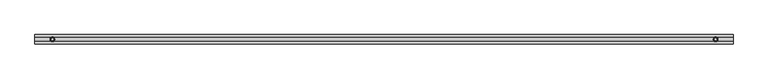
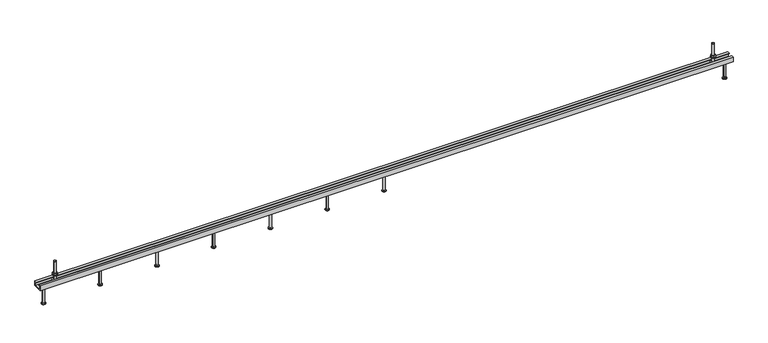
"""IFC4 building model written with IfcOpenShell, lengths in millimetres: fastener geometry, JTA-W JORDAHL® AnchorChannels : JTA-W L=3000 mm."""

from ifc_helpers import new_model, si_unit, point, frame, frame_2d, origin, place, context, project, spatial, polyline, circle_curve, trimmed, segment, composite_curve, outline, extrude, source, transform, mapped, element, save
from ifc_brep_helpers import plane_surface, cylinder_surface, revolved_surface, advanced_brep


def fastener_7793e029(model_context):
    return source(origin(), model_context, "Body", "SolidModel", [
        advanced_brep(
        [(1500.0, 0.0, -22.0), (1513.5, 0.0, -22.0), (1486.5, 0.0, -22.0), (1491.5, 0.0, -100.0), (1508.5, 0.0, -100.0), (1500.0, 0.0, -100.0), (1491.5, 0.0, -98.0), (1508.5, 0.0, -98.0), (1495.5, 0.0, -95.6905989), (1504.5, 0.0, -95.6905989), (1495.5, 0.0, -24.5), (1504.5, 0.0, -24.5)],
        [
            (0, 1),
            (1, 2, circle_curve(frame((1500.0, 0.0, -22.0), z_axis=(0.0, 0.0, 1.0), x_axis=(1.0, 0.0, 0.0)), 13.5)),
            (2, 0),
            (2, 1, circle_curve(frame((1500.0, 0.0, -22.0), z_axis=(0.0, 0.0, 1.0), x_axis=(1.0, 0.0, 0.0)), 13.5)),
            (3, 4, circle_curve(frame((1500.0, 0.0, -100.0), z_axis=(0.0, 0.0, -1.0), x_axis=(1.0, 0.0, 0.0)), 8.5)),
            (4, 5),
            (5, 3),
            (4, 3, circle_curve(frame((1500.0, 0.0, -100.0), z_axis=(0.0, 0.0, -1.0), x_axis=(1.0, 0.0, 0.0)), 8.5)),
            (6, 7, circle_curve(frame((1500.0, 0.0, -98.0), z_axis=(0.0, 0.0, -1.0), x_axis=(1.0, 0.0, 0.0)), 8.5)),
            (7, 4),
            (3, 6),
            (7, 6, circle_curve(frame((1500.0, 0.0, -98.0), z_axis=(0.0, 0.0, -1.0), x_axis=(1.0, 0.0, 0.0)), 8.5)),
            (8, 9, circle_curve(frame((1500.0, 0.0, -95.6905989), z_axis=(0.0, 0.0, -1.0), x_axis=(1.0, 0.0, 0.0)), 4.5)),
            (9, 7),
            (6, 8),
            (9, 8, circle_curve(frame((1500.0, 0.0, -95.6905989), z_axis=(0.0, 0.0, -1.0), x_axis=(1.0, 0.0, 0.0)), 4.5)),
            (10, 11, circle_curve(frame((1500.0, 0.0, -24.5), z_axis=(0.0, 0.0, -1.0), x_axis=(1.0, 0.0, 0.0)), 4.5)),
            (11, 9),
            (8, 10),
            (11, 10, circle_curve(frame((1500.0, 0.0, -24.5), z_axis=(0.0, 0.0, -1.0), x_axis=(1.0, 0.0, 0.0)), 4.5)),
            (1, 11),
            (10, 2),
        ],
        [
            plane_surface(frame((1500.0, 0.0, -22.0), z_axis=(0.0, 0.0, 1.0), x_axis=(1.0, 0.0, 0.0))),
            plane_surface(frame((1500.0, 0.0, -100.0), z_axis=(0.0, 0.0, -1.0), x_axis=(1.0, 0.0, 0.0))),
            cylinder_surface(frame((1500.0, 0.0, 2292.3150031), z_axis=(0.0, 0.0, 1.0), x_axis=(1.0, 0.0, 0.0)), 8.5),
            revolved_surface(polyline([(1508.5, 0.0, -98.0), (1504.5, 0.0, -95.6905989)]), (1500.0, 0.0, 2292.3150031), (0.0, 0.0, 1.0)),
            cylinder_surface(frame((1500.0, 0.0, 2292.3150031), z_axis=(0.0, 0.0, 1.0), x_axis=(1.0, 0.0, 0.0)), 4.5),
            revolved_surface(polyline([(1504.5, 0.0, -24.5), (1513.5, 0.0, -22.0)]), (1500.0, 0.0, 2292.3150031), (0.0, 0.0, 1.0)),
        ],
        [
            (0, [[1, 2, 3]]),
            (0, [[-3, 4, -1]]),
            (1, [[5, 6, 7]]),
            (1, [[8, -7, -6]]),
            (2, [[9, 10, -5, 11]]),
            (2, [[12, -11, -8, -10]]),
            (3, [[13, 14, -9, 15]]),
            (3, [[16, -15, -12, -14]]),
            (4, [[17, 18, -13, 19]]),
            (4, [[20, -19, -16, -18]]),
            (5, [[-2, 21, -17, 22]]),
            (5, [[-4, -22, -20, -21]]),
        ],
    ),
        advanced_brep(
        [(1254.1666667, 0.0, -22.0), (1267.6666667, 0.0, -22.0), (1240.6666667, 0.0, -22.0), (1245.6666667, 0.0, -100.0), (1262.6666667, 0.0, -100.0), (1254.1666667, 0.0, -100.0), (1245.6666667, 0.0, -98.0), (1262.6666667, 0.0, -98.0), (1249.6666667, 0.0, -95.6905989), (1258.6666667, 0.0, -95.6905989), (1249.6666667, 0.0, -24.5), (1258.6666667, 0.0, -24.5)],
        [
            (0, 1),
            (1, 2, circle_curve(frame((1254.1666667, 0.0, -22.0), z_axis=(0.0, 0.0, 1.0), x_axis=(1.0, 0.0, 0.0)), 13.5)),
            (2, 0),
            (2, 1, circle_curve(frame((1254.1666667, 0.0, -22.0), z_axis=(0.0, 0.0, 1.0), x_axis=(1.0, 0.0, 0.0)), 13.5)),
            (3, 4, circle_curve(frame((1254.1666667, 0.0, -100.0), z_axis=(0.0, 0.0, -1.0), x_axis=(1.0, 0.0, 0.0)), 8.5)),
            (4, 5),
            (5, 3),
            (4, 3, circle_curve(frame((1254.1666667, 0.0, -100.0), z_axis=(0.0, 0.0, -1.0), x_axis=(1.0, 0.0, 0.0)), 8.5)),
            (6, 7, circle_curve(frame((1254.1666667, 0.0, -98.0), z_axis=(0.0, 0.0, -1.0), x_axis=(1.0, 0.0, 0.0)), 8.5)),
            (7, 4),
            (3, 6),
            (7, 6, circle_curve(frame((1254.1666667, 0.0, -98.0), z_axis=(0.0, 0.0, -1.0), x_axis=(1.0, 0.0, 0.0)), 8.5)),
            (8, 9, circle_curve(frame((1254.1666667, 0.0, -95.6905989), z_axis=(0.0, 0.0, -1.0), x_axis=(1.0, 0.0, 0.0)), 4.5)),
            (9, 7),
            (6, 8),
            (9, 8, circle_curve(frame((1254.1666667, 0.0, -95.6905989), z_axis=(0.0, 0.0, -1.0), x_axis=(1.0, 0.0, 0.0)), 4.5)),
            (10, 11, circle_curve(frame((1254.1666667, 0.0, -24.5), z_axis=(0.0, 0.0, -1.0), x_axis=(1.0, 0.0, 0.0)), 4.5)),
            (11, 9),
            (8, 10),
            (11, 10, circle_curve(frame((1254.1666667, 0.0, -24.5), z_axis=(0.0, 0.0, -1.0), x_axis=(1.0, 0.0, 0.0)), 4.5)),
            (1, 11),
            (10, 2),
        ],
        [
            plane_surface(frame((1254.1666667, 0.0, -22.0), z_axis=(0.0, 0.0, 1.0), x_axis=(1.0, 0.0, 0.0))),
            plane_surface(frame((1254.1666667, 0.0, -100.0), z_axis=(0.0, 0.0, -1.0), x_axis=(1.0, 0.0, 0.0))),
            cylinder_surface(frame((1254.1666667, 0.0, 2292.3150031), z_axis=(0.0, 0.0, 1.0), x_axis=(1.0, 0.0, 0.0)), 8.5),
            revolved_surface(polyline([(1262.6666667, 0.0, -98.0), (1258.6666667, 0.0, -95.6905989)]), (1254.1666667, 0.0, 2292.3150031), (0.0, 0.0, 1.0)),
            cylinder_surface(frame((1254.1666667, 0.0, 2292.3150031), z_axis=(0.0, 0.0, 1.0), x_axis=(1.0, 0.0, 0.0)), 4.5),
            revolved_surface(polyline([(1258.6666667, 0.0, -24.5), (1267.6666667, 0.0, -22.0)]), (1254.1666667, 0.0, 2292.3150031), (0.0, 0.0, 1.0)),
        ],
        [
            (0, [[1, 2, 3]]),
            (0, [[-3, 4, -1]]),
            (1, [[5, 6, 7]]),
            (1, [[8, -7, -6]]),
            (2, [[9, 10, -5, 11]]),
            (2, [[12, -11, -8, -10]]),
            (3, [[13, 14, -9, 15]]),
            (3, [[16, -15, -12, -14]]),
            (4, [[17, 18, -13, 19]]),
            (4, [[20, -19, -16, -18]]),
            (5, [[-2, 21, -17, 22]]),
            (5, [[-4, -22, -20, -21]]),
        ],
    ),
        advanced_brep(
        [(1008.3333333, 0.0, -22.0), (1021.8333333, 0.0, -22.0), (994.8333333, 0.0, -22.0), (999.8333333, 0.0, -100.0), (1016.8333333, 0.0, -100.0), (1008.3333333, 0.0, -100.0), (999.8333333, 0.0, -98.0), (1016.8333333, 0.0, -98.0), (1003.8333333, 0.0, -95.6905989), (1012.8333333, 0.0, -95.6905989), (1003.8333333, 0.0, -24.5), (1012.8333333, 0.0, -24.5)],
        [
            (0, 1),
            (1, 2, circle_curve(frame((1008.3333333, 0.0, -22.0), z_axis=(0.0, 0.0, 1.0), x_axis=(1.0, 0.0, 0.0)), 13.5)),
            (2, 0),
            (2, 1, circle_curve(frame((1008.3333333, 0.0, -22.0), z_axis=(0.0, 0.0, 1.0), x_axis=(1.0, 0.0, 0.0)), 13.5)),
            (3, 4, circle_curve(frame((1008.3333333, 0.0, -100.0), z_axis=(0.0, 0.0, -1.0), x_axis=(1.0, 0.0, 0.0)), 8.5)),
            (4, 5),
            (5, 3),
            (4, 3, circle_curve(frame((1008.3333333, 0.0, -100.0), z_axis=(0.0, 0.0, -1.0), x_axis=(1.0, 0.0, 0.0)), 8.5)),
            (6, 7, circle_curve(frame((1008.3333333, 0.0, -98.0), z_axis=(0.0, 0.0, -1.0), x_axis=(1.0, 0.0, 0.0)), 8.5)),
            (7, 4),
            (3, 6),
            (7, 6, circle_curve(frame((1008.3333333, 0.0, -98.0), z_axis=(0.0, 0.0, -1.0), x_axis=(1.0, 0.0, 0.0)), 8.5)),
            (8, 9, circle_curve(frame((1008.3333333, 0.0, -95.6905989), z_axis=(0.0, 0.0, -1.0), x_axis=(1.0, 0.0, 0.0)), 4.5)),
            (9, 7),
            (6, 8),
            (9, 8, circle_curve(frame((1008.3333333, 0.0, -95.6905989), z_axis=(0.0, 0.0, -1.0), x_axis=(1.0, 0.0, 0.0)), 4.5)),
            (10, 11, circle_curve(frame((1008.3333333, 0.0, -24.5), z_axis=(0.0, 0.0, -1.0), x_axis=(1.0, 0.0, 0.0)), 4.5)),
            (11, 9),
            (8, 10),
            (11, 10, circle_curve(frame((1008.3333333, 0.0, -24.5), z_axis=(0.0, 0.0, -1.0), x_axis=(1.0, 0.0, 0.0)), 4.5)),
            (1, 11),
            (10, 2),
        ],
        [
            plane_surface(frame((1008.3333333, 0.0, -22.0), z_axis=(0.0, 0.0, 1.0), x_axis=(1.0, 0.0, 0.0))),
            plane_surface(frame((1008.3333333, 0.0, -100.0), z_axis=(0.0, 0.0, -1.0), x_axis=(1.0, 0.0, 0.0))),
            cylinder_surface(frame((1008.3333333, 0.0, 2292.3150031), z_axis=(0.0, 0.0, 1.0), x_axis=(1.0, 0.0, 0.0)), 8.5),
            revolved_surface(polyline([(1016.8333333, 0.0, -98.0), (1012.8333333, 0.0, -95.6905989)]), (1008.3333333, 0.0, 2292.3150031), (0.0, 0.0, 1.0)),
            cylinder_surface(frame((1008.3333333, 0.0, 2292.3150031), z_axis=(0.0, 0.0, 1.0), x_axis=(1.0, 0.0, 0.0)), 4.5),
            revolved_surface(polyline([(1012.8333333, 0.0, -24.5), (1021.8333333, 0.0, -22.0)]), (1008.3333333, 0.0, 2292.3150031), (0.0, 0.0, 1.0)),
        ],
        [
            (0, [[1, 2, 3]]),
            (0, [[-3, 4, -1]]),
            (1, [[5, 6, 7]]),
            (1, [[8, -7, -6]]),
            (2, [[9, 10, -5, 11]]),
            (2, [[12, -11, -8, -10]]),
            (3, [[13, 14, -9, 15]]),
            (3, [[16, -15, -12, -14]]),
            (4, [[17, 18, -13, 19]]),
            (4, [[20, -19, -16, -18]]),
            (5, [[-2, 21, -17, 22]]),
            (5, [[-4, -22, -20, -21]]),
        ],
    ),
        advanced_brep(
        [(762.5, 0.0, -22.0), (776.0, 0.0, -22.0), (749.0, 0.0, -22.0), (754.0, 0.0, -100.0), (771.0, 0.0, -100.0), (762.5, 0.0, -100.0), (754.0, 0.0, -98.0), (771.0, 0.0, -98.0), (758.0, 0.0, -95.6905989), (767.0, 0.0, -95.6905989), (758.0, 0.0, -24.5), (767.0, 0.0, -24.5)],
        [
            (0, 1),
            (1, 2, circle_curve(frame((762.5, 0.0, -22.0), z_axis=(0.0, 0.0, 1.0), x_axis=(1.0, 0.0, 0.0)), 13.5)),
            (2, 0),
            (2, 1, circle_curve(frame((762.5, 0.0, -22.0), z_axis=(0.0, 0.0, 1.0), x_axis=(1.0, 0.0, 0.0)), 13.5)),
            (3, 4, circle_curve(frame((762.5, 0.0, -100.0), z_axis=(0.0, 0.0, -1.0), x_axis=(1.0, 0.0, 0.0)), 8.5)),
            (4, 5),
            (5, 3),
            (4, 3, circle_curve(frame((762.5, 0.0, -100.0), z_axis=(0.0, 0.0, -1.0), x_axis=(1.0, 0.0, 0.0)), 8.5)),
            (6, 7, circle_curve(frame((762.5, 0.0, -98.0), z_axis=(0.0, 0.0, -1.0), x_axis=(1.0, 0.0, 0.0)), 8.5)),
            (7, 4),
            (3, 6),
            (7, 6, circle_curve(frame((762.5, 0.0, -98.0), z_axis=(0.0, 0.0, -1.0), x_axis=(1.0, 0.0, 0.0)), 8.5)),
            (8, 9, circle_curve(frame((762.5, 0.0, -95.6905989), z_axis=(0.0, 0.0, -1.0), x_axis=(1.0, 0.0, 0.0)), 4.5)),
            (9, 7),
            (6, 8),
            (9, 8, circle_curve(frame((762.5, 0.0, -95.6905989), z_axis=(0.0, 0.0, -1.0), x_axis=(1.0, 0.0, 0.0)), 4.5)),
            (10, 11, circle_curve(frame((762.5, 0.0, -24.5), z_axis=(0.0, 0.0, -1.0), x_axis=(1.0, 0.0, 0.0)), 4.5)),
            (11, 9),
            (8, 10),
            (11, 10, circle_curve(frame((762.5, 0.0, -24.5), z_axis=(0.0, 0.0, -1.0), x_axis=(1.0, 0.0, 0.0)), 4.5)),
            (1, 11),
            (10, 2),
        ],
        [
            plane_surface(frame((762.5, 0.0, -22.0), z_axis=(0.0, 0.0, 1.0), x_axis=(1.0, 0.0, 0.0))),
            plane_surface(frame((762.5, 0.0, -100.0), z_axis=(0.0, 0.0, -1.0), x_axis=(1.0, 0.0, 0.0))),
            cylinder_surface(frame((762.5, 0.0, 2292.3150031), z_axis=(0.0, 0.0, 1.0), x_axis=(1.0, 0.0, 0.0)), 8.5),
            revolved_surface(polyline([(771.0, 0.0, -98.0), (767.0, 0.0, -95.6905989)]), (762.5, 0.0, 2292.3150031), (0.0, 0.0, 1.0)),
            cylinder_surface(frame((762.5, 0.0, 2292.3150031), z_axis=(0.0, 0.0, 1.0), x_axis=(1.0, 0.0, 0.0)), 4.5),
            revolved_surface(polyline([(767.0, 0.0, -24.5), (776.0, 0.0, -22.0)]), (762.5, 0.0, 2292.3150031), (0.0, 0.0, 1.0)),
        ],
        [
            (0, [[1, 2, 3]]),
            (0, [[-3, 4, -1]]),
            (1, [[5, 6, 7]]),
            (1, [[8, -7, -6]]),
            (2, [[9, 10, -5, 11]]),
            (2, [[12, -11, -8, -10]]),
            (3, [[13, 14, -9, 15]]),
            (3, [[16, -15, -12, -14]]),
            (4, [[17, 18, -13, 19]]),
            (4, [[20, -19, -16, -18]]),
            (5, [[-2, 21, -17, 22]]),
            (5, [[-4, -22, -20, -21]]),
        ],
    ),
        advanced_brep(
        [(516.6666667, 0.0, -22.0), (530.1666667, 0.0, -22.0), (503.1666667, 0.0, -22.0), (508.1666667, 0.0, -100.0), (525.1666667, 0.0, -100.0), (516.6666667, 0.0, -100.0), (508.1666667, 0.0, -98.0), (525.1666667, 0.0, -98.0), (512.1666667, 0.0, -95.6905989), (521.1666667, 0.0, -95.6905989), (512.1666667, 0.0, -24.5), (521.1666667, 0.0, -24.5)],
        [
            (0, 1),
            (1, 2, circle_curve(frame((516.6666667, 0.0, -22.0), z_axis=(0.0, 0.0, 1.0), x_axis=(1.0, 0.0, 0.0)), 13.5)),
            (2, 0),
            (2, 1, circle_curve(frame((516.6666667, 0.0, -22.0), z_axis=(0.0, 0.0, 1.0), x_axis=(1.0, 0.0, 0.0)), 13.5)),
            (3, 4, circle_curve(frame((516.6666667, 0.0, -100.0), z_axis=(0.0, 0.0, -1.0), x_axis=(1.0, 0.0, 0.0)), 8.5)),
            (4, 5),
            (5, 3),
            (4, 3, circle_curve(frame((516.6666667, 0.0, -100.0), z_axis=(0.0, 0.0, -1.0), x_axis=(1.0, 0.0, 0.0)), 8.5)),
            (6, 7, circle_curve(frame((516.6666667, 0.0, -98.0), z_axis=(0.0, 0.0, -1.0), x_axis=(1.0, 0.0, 0.0)), 8.5)),
            (7, 4),
            (3, 6),
            (7, 6, circle_curve(frame((516.6666667, 0.0, -98.0), z_axis=(0.0, 0.0, -1.0), x_axis=(1.0, 0.0, 0.0)), 8.5)),
            (8, 9, circle_curve(frame((516.6666667, 0.0, -95.6905989), z_axis=(0.0, 0.0, -1.0), x_axis=(1.0, 0.0, 0.0)), 4.5)),
            (9, 7),
            (6, 8),
            (9, 8, circle_curve(frame((516.6666667, 0.0, -95.6905989), z_axis=(0.0, 0.0, -1.0), x_axis=(1.0, 0.0, 0.0)), 4.5)),
            (10, 11, circle_curve(frame((516.6666667, 0.0, -24.5), z_axis=(0.0, 0.0, -1.0), x_axis=(1.0, 0.0, 0.0)), 4.5)),
            (11, 9),
            (8, 10),
            (11, 10, circle_curve(frame((516.6666667, 0.0, -24.5), z_axis=(0.0, 0.0, -1.0), x_axis=(1.0, 0.0, 0.0)), 4.5)),
            (1, 11),
            (10, 2),
        ],
        [
            plane_surface(frame((516.6666667, 0.0, -22.0), z_axis=(0.0, 0.0, 1.0), x_axis=(1.0, 0.0, 0.0))),
            plane_surface(frame((516.6666667, 0.0, -100.0), z_axis=(0.0, 0.0, -1.0), x_axis=(1.0, 0.0, 0.0))),
            cylinder_surface(frame((516.6666667, 0.0, 2292.3150031), z_axis=(0.0, 0.0, 1.0), x_axis=(1.0, 0.0, 0.0)), 8.5),
            revolved_surface(polyline([(525.1666667, 0.0, -98.0), (521.1666667, 0.0, -95.6905989)]), (516.6666667, 0.0, 2292.3150031), (0.0, 0.0, 1.0)),
            cylinder_surface(frame((516.6666667, 0.0, 2292.3150031), z_axis=(0.0, 0.0, 1.0), x_axis=(1.0, 0.0, 0.0)), 4.5),
            revolved_surface(polyline([(521.1666667, 0.0, -24.5), (530.1666667, 0.0, -22.0)]), (516.6666667, 0.0, 2292.3150031), (0.0, 0.0, 1.0)),
        ],
        [
            (0, [[1, 2, 3]]),
            (0, [[-3, 4, -1]]),
            (1, [[5, 6, 7]]),
            (1, [[8, -7, -6]]),
            (2, [[9, 10, -5, 11]]),
            (2, [[12, -11, -8, -10]]),
            (3, [[13, 14, -9, 15]]),
            (3, [[16, -15, -12, -14]]),
            (4, [[17, 18, -13, 19]]),
            (4, [[20, -19, -16, -18]]),
            (5, [[-2, 21, -17, 22]]),
            (5, [[-4, -22, -20, -21]]),
        ],
    ),
        advanced_brep(
        [(270.8333333, 0.0, -22.0), (284.3333333, 0.0, -22.0), (257.3333333, 0.0, -22.0), (262.3333333, 0.0, -100.0), (279.3333333, 0.0, -100.0), (270.8333333, 0.0, -100.0), (262.3333333, 0.0, -98.0), (279.3333333, 0.0, -98.0), (266.3333333, 0.0, -95.6905989), (275.3333333, 0.0, -95.6905989), (266.3333333, 0.0, -24.5), (275.3333333, 0.0, -24.5)],
        [
            (0, 1),
            (1, 2, circle_curve(frame((270.8333333, 0.0, -22.0), z_axis=(0.0, 0.0, 1.0), x_axis=(1.0, 0.0, 0.0)), 13.5)),
            (2, 0),
            (2, 1, circle_curve(frame((270.8333333, 0.0, -22.0), z_axis=(0.0, 0.0, 1.0), x_axis=(1.0, 0.0, 0.0)), 13.5)),
            (3, 4, circle_curve(frame((270.8333333, 0.0, -100.0), z_axis=(0.0, 0.0, -1.0), x_axis=(1.0, 0.0, 0.0)), 8.5)),
            (4, 5),
            (5, 3),
            (4, 3, circle_curve(frame((270.8333333, 0.0, -100.0), z_axis=(0.0, 0.0, -1.0), x_axis=(1.0, 0.0, 0.0)), 8.5)),
            (6, 7, circle_curve(frame((270.8333333, 0.0, -98.0), z_axis=(0.0, 0.0, -1.0), x_axis=(1.0, 0.0, 0.0)), 8.5)),
            (7, 4),
            (3, 6),
            (7, 6, circle_curve(frame((270.8333333, 0.0, -98.0), z_axis=(0.0, 0.0, -1.0), x_axis=(1.0, 0.0, 0.0)), 8.5)),
            (8, 9, circle_curve(frame((270.8333333, 0.0, -95.6905989), z_axis=(0.0, 0.0, -1.0), x_axis=(1.0, 0.0, 0.0)), 4.5)),
            (9, 7),
            (6, 8),
            (9, 8, circle_curve(frame((270.8333333, 0.0, -95.6905989), z_axis=(0.0, 0.0, -1.0), x_axis=(1.0, 0.0, 0.0)), 4.5)),
            (10, 11, circle_curve(frame((270.8333333, 0.0, -24.5), z_axis=(0.0, 0.0, -1.0), x_axis=(1.0, 0.0, 0.0)), 4.5)),
            (11, 9),
            (8, 10),
            (11, 10, circle_curve(frame((270.8333333, 0.0, -24.5), z_axis=(0.0, 0.0, -1.0), x_axis=(1.0, 0.0, 0.0)), 4.5)),
            (1, 11),
            (10, 2),
        ],
        [
            plane_surface(frame((270.8333333, 0.0, -22.0), z_axis=(0.0, 0.0, 1.0), x_axis=(1.0, 0.0, 0.0))),
            plane_surface(frame((270.8333333, 0.0, -100.0), z_axis=(0.0, 0.0, -1.0), x_axis=(1.0, 0.0, 0.0))),
            cylinder_surface(frame((270.8333333, 0.0, 2292.3150031), z_axis=(0.0, 0.0, 1.0), x_axis=(1.0, 0.0, 0.0)), 8.5),
            revolved_surface(polyline([(279.3333333, 0.0, -98.0), (275.3333333, 0.0, -95.6905989)]), (270.8333333, 0.0, 2292.3150031), (0.0, 0.0, 1.0)),
            cylinder_surface(frame((270.8333333, 0.0, 2292.3150031), z_axis=(0.0, 0.0, 1.0), x_axis=(1.0, 0.0, 0.0)), 4.5),
            revolved_surface(polyline([(275.3333333, 0.0, -24.5), (284.3333333, 0.0, -22.0)]), (270.8333333, 0.0, 2292.3150031), (0.0, 0.0, 1.0)),
        ],
        [
            (0, [[1, 2, 3]]),
            (0, [[-3, 4, -1]]),
            (1, [[5, 6, 7]]),
            (1, [[8, -7, -6]]),
            (2, [[9, 10, -5, 11]]),
            (2, [[12, -11, -8, -10]]),
            (3, [[13, 14, -9, 15]]),
            (3, [[16, -15, -12, -14]]),
            (4, [[17, 18, -13, 19]]),
            (4, [[20, -19, -16, -18]]),
            (5, [[-2, 21, -17, 22]]),
            (5, [[-4, -22, -20, -21]]),
        ],
    ),
        extrude(outline(polyline([(2925.0, 9.2376043), (2933.0, 4.6188022), (2933.0, -4.6188022), (2925.0, -9.2376043), (2917.0, -4.6188022), (2917.0, 4.6188022), (2925.0, 9.2376043)]), holes=[composite_curve([segment(trimmed(circle_curve(frame_2d((2925.0, 0.0)), 5.0), [point((2920.0, 0.0))], [point((2930.0, 0.0))], True, "CARTESIAN"), True, "CONTINUOUS"), segment(trimmed(circle_curve(frame_2d((2925.0, 0.0)), 5.0), [point((2930.0, 0.0))], [point((2920.0, 0.0))], True, "CARTESIAN"), True, "CONTINUOUS")], self_intersect=False)]), frame((0.0, 0.0, 17.0), z_axis=(0.0, 0.0, 1.0), x_axis=(1.0, 0.0, 0.0)), (0.0, 0.0, 1.0), 8.4),
        extrude(outline(composite_curve([segment(trimmed(circle_curve(frame_2d((2925.0, 0.0)), 10.0), [point((2915.0, 0.0))], [point((2935.0, 0.0))], False, "CARTESIAN"), True, "CONTINUOUS"), segment(trimmed(circle_curve(frame_2d((2925.0, 0.0)), 10.0), [point((2935.0, 0.0))], [point((2915.0, 0.0))], False, "CARTESIAN"), True, "CONTINUOUS")], self_intersect=False), holes=[composite_curve([segment(trimmed(circle_curve(frame_2d((2925.0, 0.0)), 5.25), [point((2919.75, 0.0))], [point((2930.25, 0.0))], True, "CARTESIAN"), True, "CONTINUOUS"), segment(trimmed(circle_curve(frame_2d((2925.0, 0.0)), 5.25), [point((2930.25, 0.0))], [point((2919.75, 0.0))], True, "CARTESIAN"), True, "CONTINUOUS")], self_intersect=False)]), frame((0.0, 0.0, 15.0), z_axis=(0.0, 0.0, 1.0), x_axis=(1.0, 0.0, 0.0)), (0.0, 0.0, 1.0), 2.0),
        extrude(outline(polyline([(75.0, 9.2376043), (83.0, 4.6188022), (83.0, -4.6188022), (75.0, -9.2376043), (67.0, -4.6188022), (67.0, 4.6188022), (75.0, 9.2376043)]), holes=[composite_curve([segment(trimmed(circle_curve(frame_2d((75.0, 0.0)), 5.0), [point((70.0, 0.0))], [point((80.0, 0.0))], True, "CARTESIAN"), True, "CONTINUOUS"), segment(trimmed(circle_curve(frame_2d((75.0, 0.0)), 5.0), [point((80.0, 0.0))], [point((70.0, 0.0))], True, "CARTESIAN"), True, "CONTINUOUS")], self_intersect=False)]), frame((0.0, 0.0, 17.0), z_axis=(0.0, 0.0, 1.0), x_axis=(1.0, 0.0, 0.0)), (0.0, 0.0, 1.0), 8.4),
        extrude(outline(composite_curve([segment(trimmed(circle_curve(frame_2d((75.0, 0.0)), 10.0), [point((65.0, 0.0))], [point((85.0, 0.0))], False, "CARTESIAN"), True, "CONTINUOUS"), segment(trimmed(circle_curve(frame_2d((75.0, 0.0)), 10.0), [point((85.0, 0.0))], [point((65.0, 0.0))], False, "CARTESIAN"), True, "CONTINUOUS")], self_intersect=False), holes=[composite_curve([segment(trimmed(circle_curve(frame_2d((75.0, 0.0)), 5.25), [point((69.75, 0.0))], [point((80.25, 0.0))], True, "CARTESIAN"), True, "CONTINUOUS"), segment(trimmed(circle_curve(frame_2d((75.0, 0.0)), 5.25), [point((80.25, 0.0))], [point((69.75, 0.0))], True, "CARTESIAN"), True, "CONTINUOUS")], self_intersect=False)]), frame((0.0, 0.0, 15.0), z_axis=(0.0, 0.0, 1.0), x_axis=(1.0, 0.0, 0.0)), (0.0, 0.0, 1.0), 2.0),
        advanced_brep(
        [(2932.0, 16.25, -3.0), (2932.0, -16.25, -3.0), (2932.0, -16.25, -11.0), (2932.0, 16.25, -11.0), (2918.0, 16.25, -3.0), (2918.0, 16.25, -11.0), (2918.0, -16.25, -11.0), (2918.0, -16.25, -3.0), (2930.0, 0.0, -3.0), (2920.0, 0.0, -3.0), (2920.0, 0.0, 77.0), (2930.0, 0.0, 77.0)],
        [
            (0, 1),
            (1, 2),
            (2, 3),
            (3, 0),
            (4, 5),
            (5, 6),
            (6, 7),
            (7, 4),
            (0, 4),
            (7, 1),
            (8, 9, circle_curve(frame((2925.0, 0.0, -3.0), z_axis=(0.0, 0.0, -1.0), x_axis=(1.0, 0.0, 0.0)), 5.0)),
            (9, 8, circle_curve(frame((2925.0, 0.0, -3.0), z_axis=(0.0, 0.0, -1.0), x_axis=(1.0, 0.0, 0.0)), 5.0)),
            (6, 2),
            (5, 3),
            (10, 11, circle_curve(frame((2925.0, 0.0, 77.0), z_axis=(0.0, 0.0, 1.0), x_axis=(1.0, 0.0, 0.0)), 5.0)),
            (11, 10, circle_curve(frame((2925.0, 0.0, 77.0), z_axis=(0.0, 0.0, 1.0), x_axis=(1.0, 0.0, 0.0)), 5.0)),
            (10, 9),
            (8, 11),
        ],
        [
            plane_surface(frame((2932.0, -16.25, -3.0), z_axis=(1.0, 0.0, 0.0), x_axis=(0.0, -1.0, 0.0))),
            plane_surface(frame((2918.0, -16.25, -3.0), z_axis=(-1.0, 0.0, 0.0), x_axis=(0.0, 1.0, 0.0))),
            plane_surface(frame((2932.0, 16.25, -3.0), z_axis=(0.0, 0.0, 1.0), x_axis=(-1.0, 0.0, 0.0))),
            plane_surface(frame((2932.0, -16.25, -3.0), z_axis=(0.0, -1.0, 0.0), x_axis=(-1.0, 0.0, 0.0))),
            plane_surface(frame((2932.0, -16.25, -11.0), z_axis=(0.0, 0.0, -1.0), x_axis=(-1.0, 0.0, 0.0))),
            plane_surface(frame((2932.0, 16.25, -11.0), z_axis=(0.0, 1.0, 0.0), x_axis=(-1.0, 0.0, 0.0))),
            plane_surface(frame((2930.0, 0.0, 77.0), z_axis=(0.0, 0.0, 1.0), x_axis=(0.0, 1.0, 0.0))),
            cylinder_surface(frame((2925.0, 0.0, -3.0), z_axis=(0.0, 0.0, 1.0), x_axis=(1.0, 0.0, 0.0)), 5.0),
        ],
        [
            (0, [[1, 2, 3, 4]]),
            (1, [[5, 6, 7, 8]]),
            (2, [[-1, 9, -8, 10], [11, 12]]),
            (3, [[-2, -10, -7, 13]]),
            (4, [[-3, -13, -6, 14]]),
            (5, [[-4, -14, -5, -9]]),
            (6, [[15, 16]]),
            (7, [[-15, 17, -11, 18]]),
            (7, [[-16, -18, -12, -17]]),
        ],
    ),
        advanced_brep(
        [(82.0, 16.25, -3.0), (82.0, -16.25, -3.0), (82.0, -16.25, -11.0), (82.0, 16.25, -11.0), (68.0, 16.25, -3.0), (68.0, 16.25, -11.0), (68.0, -16.25, -11.0), (68.0, -16.25, -3.0), (80.0, 0.0, -3.0), (70.0, 0.0, -3.0), (70.0, 0.0, 77.0), (80.0, 0.0, 77.0)],
        [
            (0, 1),
            (1, 2),
            (2, 3),
            (3, 0),
            (4, 5),
            (5, 6),
            (6, 7),
            (7, 4),
            (0, 4),
            (7, 1),
            (8, 9, circle_curve(frame((75.0, 0.0, -3.0), z_axis=(0.0, 0.0, -1.0), x_axis=(1.0, 0.0, 0.0)), 5.0)),
            (9, 8, circle_curve(frame((75.0, 0.0, -3.0), z_axis=(0.0, 0.0, -1.0), x_axis=(1.0, 0.0, 0.0)), 5.0)),
            (6, 2),
            (5, 3),
            (10, 11, circle_curve(frame((75.0, 0.0, 77.0), z_axis=(0.0, 0.0, 1.0), x_axis=(1.0, 0.0, 0.0)), 5.0)),
            (11, 10, circle_curve(frame((75.0, 0.0, 77.0), z_axis=(0.0, 0.0, 1.0), x_axis=(1.0, 0.0, 0.0)), 5.0)),
            (10, 9),
            (8, 11),
        ],
        [
            plane_surface(frame((82.0, -16.25, -3.0), z_axis=(1.0, 0.0, 0.0), x_axis=(0.0, -1.0, 0.0))),
            plane_surface(frame((68.0, -16.25, -3.0), z_axis=(-1.0, 0.0, 0.0), x_axis=(0.0, 1.0, 0.0))),
            plane_surface(frame((82.0, 16.25, -3.0), z_axis=(0.0, 0.0, 1.0), x_axis=(-1.0, 0.0, 0.0))),
            plane_surface(frame((82.0, -16.25, -3.0), z_axis=(0.0, -1.0, 0.0), x_axis=(-1.0, 0.0, 0.0))),
            plane_surface(frame((82.0, -16.25, -11.0), z_axis=(0.0, 0.0, -1.0), x_axis=(-1.0, 0.0, 0.0))),
            plane_surface(frame((82.0, 16.25, -11.0), z_axis=(0.0, 1.0, 0.0), x_axis=(-1.0, 0.0, 0.0))),
            plane_surface(frame((80.0, 0.0, 77.0), z_axis=(0.0, 0.0, 1.0), x_axis=(0.0, 1.0, 0.0))),
            cylinder_surface(frame((75.0, 0.0, -3.0), z_axis=(0.0, 0.0, 1.0), x_axis=(1.0, 0.0, 0.0)), 5.0),
        ],
        [
            (0, [[1, 2, 3, 4]]),
            (1, [[5, 6, 7, 8]]),
            (2, [[-1, 9, -8, 10], [11, 12]]),
            (3, [[-2, -10, -7, 13]]),
            (4, [[-3, -13, -6, 14]]),
            (5, [[-4, -14, -5, -9]]),
            (6, [[15, 16]]),
            (7, [[-15, 17, -11, 18]]),
            (7, [[-16, -18, -12, -17]]),
        ],
    ),
        advanced_brep(
        [(2975.0, 0.0, -22.0), (2988.5, 0.0, -22.0), (2961.5, 0.0, -22.0), (2966.5, 0.0, -100.0), (2983.5, 0.0, -100.0), (2975.0, 0.0, -100.0), (2966.5, 0.0, -98.0), (2983.5, 0.0, -98.0), (2970.5, 0.0, -95.6905989), (2979.5, 0.0, -95.6905989), (2970.5, 0.0, -24.5), (2979.5, 0.0, -24.5)],
        [
            (0, 1),
            (1, 2, circle_curve(frame((2975.0, 0.0, -22.0), z_axis=(0.0, 0.0, 1.0), x_axis=(1.0, 0.0, 0.0)), 13.5)),
            (2, 0),
            (2, 1, circle_curve(frame((2975.0, 0.0, -22.0), z_axis=(0.0, 0.0, 1.0), x_axis=(1.0, 0.0, 0.0)), 13.5)),
            (3, 4, circle_curve(frame((2975.0, 0.0, -100.0), z_axis=(0.0, 0.0, -1.0), x_axis=(1.0, 0.0, 0.0)), 8.5)),
            (4, 5),
            (5, 3),
            (4, 3, circle_curve(frame((2975.0, 0.0, -100.0), z_axis=(0.0, 0.0, -1.0), x_axis=(1.0, 0.0, 0.0)), 8.5)),
            (6, 7, circle_curve(frame((2975.0, 0.0, -98.0), z_axis=(0.0, 0.0, -1.0), x_axis=(1.0, 0.0, 0.0)), 8.5)),
            (7, 4),
            (3, 6),
            (7, 6, circle_curve(frame((2975.0, 0.0, -98.0), z_axis=(0.0, 0.0, -1.0), x_axis=(1.0, 0.0, 0.0)), 8.5)),
            (8, 9, circle_curve(frame((2975.0, 0.0, -95.6905989), z_axis=(0.0, 0.0, -1.0), x_axis=(1.0, 0.0, 0.0)), 4.5)),
            (9, 7),
            (6, 8),
            (9, 8, circle_curve(frame((2975.0, 0.0, -95.6905989), z_axis=(0.0, 0.0, -1.0), x_axis=(1.0, 0.0, 0.0)), 4.5)),
            (10, 11, circle_curve(frame((2975.0, 0.0, -24.5), z_axis=(0.0, 0.0, -1.0), x_axis=(1.0, 0.0, 0.0)), 4.5)),
            (11, 9),
            (8, 10),
            (11, 10, circle_curve(frame((2975.0, 0.0, -24.5), z_axis=(0.0, 0.0, -1.0), x_axis=(1.0, 0.0, 0.0)), 4.5)),
            (1, 11),
            (10, 2),
        ],
        [
            plane_surface(frame((2975.0, 0.0, -22.0), z_axis=(0.0, 0.0, 1.0), x_axis=(1.0, 0.0, 0.0))),
            plane_surface(frame((2975.0, 0.0, -100.0), z_axis=(0.0, 0.0, -1.0), x_axis=(1.0, 0.0, 0.0))),
            cylinder_surface(frame((2975.0, 0.0, 2292.3150031), z_axis=(0.0, 0.0, 1.0), x_axis=(1.0, 0.0, 0.0)), 8.5),
            revolved_surface(polyline([(2983.5, 0.0, -98.0), (2979.5, 0.0, -95.6905989)]), (2975.0, 0.0, 2292.3150031), (0.0, 0.0, 1.0)),
            cylinder_surface(frame((2975.0, 0.0, 2292.3150031), z_axis=(0.0, 0.0, 1.0), x_axis=(1.0, 0.0, 0.0)), 4.5),
            revolved_surface(polyline([(2979.5, 0.0, -24.5), (2988.5, 0.0, -22.0)]), (2975.0, 0.0, 2292.3150031), (0.0, 0.0, 1.0)),
        ],
        [
            (0, [[1, 2, 3]]),
            (0, [[-3, 4, -1]]),
            (1, [[5, 6, 7]]),
            (1, [[8, -7, -6]]),
            (2, [[9, 10, -5, 11]]),
            (2, [[12, -11, -8, -10]]),
            (3, [[13, 14, -9, 15]]),
            (3, [[16, -15, -12, -14]]),
            (4, [[17, 18, -13, 19]]),
            (4, [[20, -19, -16, -18]]),
            (5, [[-2, 21, -17, 22]]),
            (5, [[-4, -22, -20, -21]]),
        ],
    ),
        advanced_brep(
        [(25.0, 0.0, -22.0), (38.5, 0.0, -22.0), (11.5, 0.0, -22.0), (16.5, 0.0, -100.0), (33.5, 0.0, -100.0), (25.0, 0.0, -100.0), (16.5, 0.0, -98.0), (33.5, 0.0, -98.0), (20.5, 0.0, -95.6905989), (29.5, 0.0, -95.6905989), (20.5, 0.0, -24.5), (29.5, 0.0, -24.5)],
        [
            (0, 1),
            (1, 2, circle_curve(frame((25.0, 0.0, -22.0), z_axis=(0.0, 0.0, 1.0), x_axis=(1.0, 0.0, 0.0)), 13.5)),
            (2, 0),
            (2, 1, circle_curve(frame((25.0, 0.0, -22.0), z_axis=(0.0, 0.0, 1.0), x_axis=(1.0, 0.0, 0.0)), 13.5)),
            (3, 4, circle_curve(frame((25.0, 0.0, -100.0), z_axis=(0.0, 0.0, -1.0), x_axis=(1.0, 0.0, 0.0)), 8.5)),
            (4, 5),
            (5, 3),
            (4, 3, circle_curve(frame((25.0, 0.0, -100.0), z_axis=(0.0, 0.0, -1.0), x_axis=(1.0, 0.0, 0.0)), 8.5)),
            (6, 7, circle_curve(frame((25.0, 0.0, -98.0), z_axis=(0.0, 0.0, -1.0), x_axis=(1.0, 0.0, 0.0)), 8.5)),
            (7, 4),
            (3, 6),
            (7, 6, circle_curve(frame((25.0, 0.0, -98.0), z_axis=(0.0, 0.0, -1.0), x_axis=(1.0, 0.0, 0.0)), 8.5)),
            (8, 9, circle_curve(frame((25.0, 0.0, -95.6905989), z_axis=(0.0, 0.0, -1.0), x_axis=(1.0, 0.0, 0.0)), 4.5)),
            (9, 7),
            (6, 8),
            (9, 8, circle_curve(frame((25.0, 0.0, -95.6905989), z_axis=(0.0, 0.0, -1.0), x_axis=(1.0, 0.0, 0.0)), 4.5)),
            (10, 11, circle_curve(frame((25.0, 0.0, -24.5), z_axis=(0.0, 0.0, -1.0), x_axis=(1.0, 0.0, 0.0)), 4.5)),
            (11, 9),
            (8, 10),
            (11, 10, circle_curve(frame((25.0, 0.0, -24.5), z_axis=(0.0, 0.0, -1.0), x_axis=(1.0, 0.0, 0.0)), 4.5)),
            (1, 11),
            (10, 2),
        ],
        [
            plane_surface(frame((25.0, 0.0, -22.0), z_axis=(0.0, 0.0, 1.0), x_axis=(1.0, 0.0, 0.0))),
            plane_surface(frame((25.0, 0.0, -100.0), z_axis=(0.0, 0.0, -1.0), x_axis=(1.0, 0.0, 0.0))),
            cylinder_surface(frame((25.0, 0.0, 2292.3150031), z_axis=(0.0, 0.0, 1.0), x_axis=(1.0, 0.0, 0.0)), 8.5),
            revolved_surface(polyline([(33.5, 0.0, -98.0), (29.5, 0.0, -95.6905989)]), (25.0, 0.0, 2292.3150031), (0.0, 0.0, 1.0)),
            cylinder_surface(frame((25.0, 0.0, 2292.3150031), z_axis=(0.0, 0.0, 1.0), x_axis=(1.0, 0.0, 0.0)), 4.5),
            revolved_surface(polyline([(29.5, 0.0, -24.5), (38.5, 0.0, -22.0)]), (25.0, 0.0, 2292.3150031), (0.0, 0.0, 1.0)),
        ],
        [
            (0, [[1, 2, 3]]),
            (0, [[-3, 4, -1]]),
            (1, [[5, 6, 7]]),
            (1, [[8, -7, -6]]),
            (2, [[9, 10, -5, 11]]),
            (2, [[12, -11, -8, -10]]),
            (3, [[13, 14, -9, 15]]),
            (3, [[16, -15, -12, -14]]),
            (4, [[17, 18, -13, 19]]),
            (4, [[20, -19, -16, -18]]),
            (5, [[-2, 21, -17, 22]]),
            (5, [[-4, -22, -20, -21]]),
        ],
    ),
        extrude(outline(polyline([(20.0, 0.0), (20.0, -22.0), (-20.0, -22.0), (-20.0, 0.0), (-9.0, 0.0), (-9.0, -3.0), (-17.5, -3.0), (-17.5, -19.5), (17.5, -19.5), (17.5, -3.0), (9.0, -3.0), (9.0, 0.0), (20.0, 0.0)])), frame((0.0, 0.0, 0.0), z_axis=(1.0, 0.0, 0.0), x_axis=(0.0, 1.0, 0.0)), (0.0, 0.0, 1.0), 3000.0),
    ])


if __name__ == "__main__":
    model = new_model("IFC4")
    model_context = context("Model", 3, world=origin())
    ifc_project = project(units=[si_unit("LENGTHUNIT", "METRE", prefix="MILLI")], contexts=[model_context])
    site = spatial("IfcSite", under=ifc_project)
    building = spatial("IfcBuilding", under=site)
    placement = place(None, origin())
    fastener_shape = fastener_7793e029(model_context)
    element("IfcFastener", 1, ObjectType="JTA-W JORDAHL® AnchorChannels : JTA-W L=3000 mm", at=placement, inside=building, context=model_context, shape_type="MappedRepresentation", body=[
        mapped(fastener_shape, transform((0.0, 0.0, 0.0), x_axis=(1.0, 0.0, 0.0), y_axis=(0.0, 1.0, 0.0), z_axis=(0.0, 0.0, 1.0))),
    ])
    save(model, "model.ifc")
